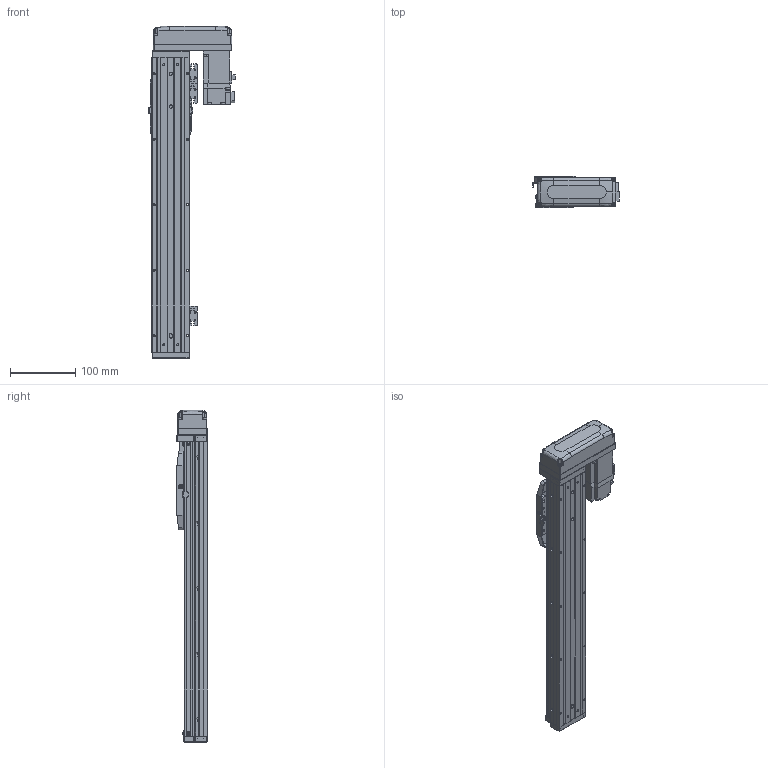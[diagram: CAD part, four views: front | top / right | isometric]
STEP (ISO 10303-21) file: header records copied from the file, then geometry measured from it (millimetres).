
FILE_DESCRIPTION (( 'STEP AP203' ), '1' );
FILE_NAME ('CTHA50-300-BL-M10-C4L.step', '2022-03-19T05:59:26', ( '微软用户' ), ( '微软中国' ), 'SwSTEP 2.0', 'SolidWorks 2020', '' );
FILE_SCHEMA (( 'CONFIG_CONTROL_DESIGN' ));
Length unit declared in the file: millimetre
Products named in the file (20): GBT 70.1-M3×15; GBT77-2000 M3×3; CTHA50-002; CTHA50-300-BL-M10-C4L; GBT 70.1-M3℅6; CTHA50-030; CTHA60-017; CTHA50-031; KTHA50-001_450; GBT 70.1-M4×12; GBT 70.3-M3℅6; KTHA50-004; CTHA60-016; CTHA50-015-2_CTHA60-015-2; KTHA50-005; CTHA60-021; CTHA60-033; EE_SX911P_R; GB¨uT 70.2-M3¡Á6_M3¡Á6; HG-KR13（三菱）
Assembly tree (60 placements, depth 2):
  CTHA50-300-BL-M10-C4L
    KTHA50-001_450
    KTHA50-004
    KTHA50-005
    GB¨uT 70.2-M3¡Á6_M3¡Á6  x10
    EE_SX911P_R  x3
    GBT77-2000 M3×3  x6
    GBT 70.1-M3℅6  x6
    CTHA60-017  x3
    GBT 70.1-M4×12  x10
    CTHA60-016  x2
    CTHA60-021  x2
    HG-KR13（三菱）
    CTHA50-002
    CTHA50-030  x2
    CTHA50-031
    GBT 70.3-M3℅6  x4
    CTHA50-015-2_CTHA60-015-2
    CTHA60-033
    GBT 70.1-M3×15  x4
Bounding box: 132.6 x 48 x 507 mm (x, y, z)
Volume: 1091583.7 mm3; surface area: 283021.5 mm2
Topology: 62 solids, 62 shells, 2493 faces, 5911 edges, 3618 vertices
Faces by surface type: plane 1410, cylinder 576, cone 349, torus 108, bspline 26, sphere 24
Entity records: 42039 total; most frequent: CARTESIAN_POINT 7771, DIRECTION 6535, ORIENTED_EDGE 6330, EDGE_CURVE 3165, LINE 2211, VECTOR 2211, AXIS2_PLACEMENT_3D 2162, VERTEX_POINT 1992
